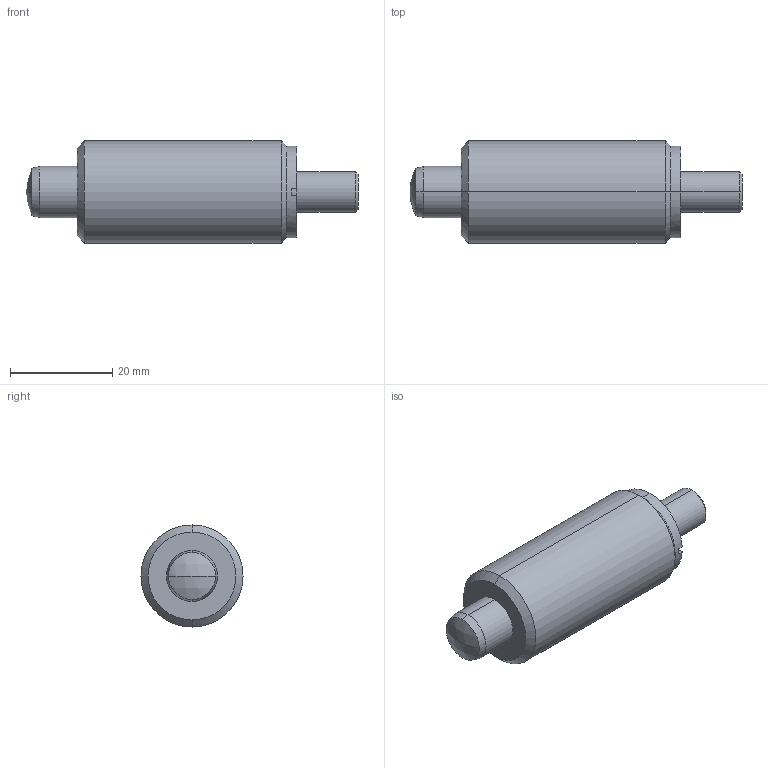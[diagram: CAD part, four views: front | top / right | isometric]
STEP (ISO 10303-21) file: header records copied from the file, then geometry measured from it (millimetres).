
FILE_DESCRIPTION (( 'STEP AP214' ), '1' );
FILE_NAME ('613-10-G-NI.step', '2022-08-30T06:28:31', ( '' ), ( '' ), 'SwSTEP 2.0', 'SolidWorks 2022', '' );
FILE_SCHEMA (( 'AUTOMOTIVE_DESIGN' ));
Length unit declared in the file: millimetre
Products named in the file (3): 613-10-G-NI; WB613_Bolzen^WB613_10-G-NI; WB613_Führung^WB613_10
Assembly tree (2 placements, depth 2):
  613-10-G-NI
    WB613_Führung^WB613_10
    WB613_Bolzen^WB613_10-G-NI
Bounding box: 65 x 20 x 20 mm (x, y, z)
Volume: 14257.8 mm3; surface area: 6720.4 mm2
Topology: 2 solids, 2 shells, 43 faces, 96 edges, 61 vertices
Faces by surface type: cylinder 20, plane 13, cone 8, sphere 2
Entity records: 1352 total; most frequent: DIRECTION 242, CARTESIAN_POINT 217, ORIENTED_EDGE 192, AXIS2_PLACEMENT_3D 102, EDGE_CURVE 96, VERTEX_POINT 61, CIRCLE 54, EDGE_LOOP 49
